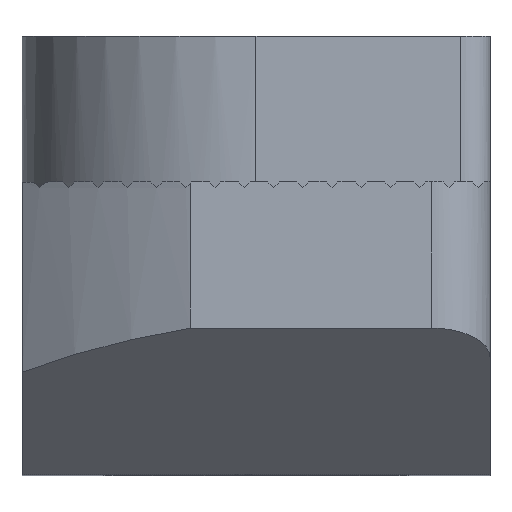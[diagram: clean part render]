
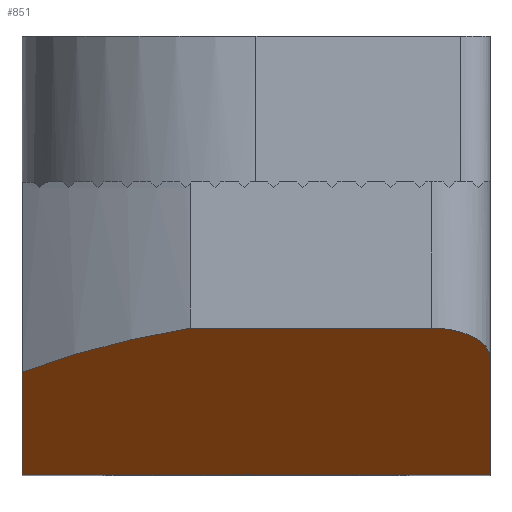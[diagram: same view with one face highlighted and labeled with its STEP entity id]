
A CAD part, top view. The second image highlights one B-rep face of the part: STEP entity #851.
In plain terms, the highlighted planar face has unit normal (0, -0.894, 0.447).
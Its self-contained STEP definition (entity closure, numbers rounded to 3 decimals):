
#5 = EDGE_CURVE ( 'NONE', #1980, #913, #3926, .T. ) ;
#8 = ORIENTED_EDGE ( 'NONE', *, *, #4090, .F. ) ;
#55 = EDGE_CURVE ( 'NONE', #3885, #1798, #2444, .T. ) ;
#133 = DIRECTION ( 'NONE',  ( 0., 0.447, 0.894 ) ) ;
#286 = VERTEX_POINT ( 'NONE', #1436 ) ;
#356 = DIRECTION ( 'NONE',  ( 0., 0.447, 0.894 ) ) ;
#490 = CARTESIAN_POINT ( 'NONE',  ( -2.159, -2.67, 9.159 ) ) ;
#526 = FACE_OUTER_BOUND ( 'NONE', #2929, .T. ) ;
#545 = EDGE_CURVE ( 'NONE', #3885, #3968, #1226, .T. ) ;
#610 = ORIENTED_EDGE ( 'NONE', *, *, #545, .F. ) ;
#827 = CARTESIAN_POINT ( 'NONE',  ( 3.586, -2.5, 9.5 ) ) ;
#851 = ADVANCED_FACE ( 'NONE', ( #526 ), #3647, .F. ) ;
#913 = VERTEX_POINT ( 'NONE', #3059 ) ;
#1020 = CARTESIAN_POINT ( 'NONE',  ( -4., -2.5, 9.5 ) ) ;
#1162 = CARTESIAN_POINT ( 'NONE',  ( 3., -2.5, 9.5 ) ) ;
#1226 = LINE ( 'NONE', #1020, #1305 ) ;
#1305 = VECTOR ( 'NONE', #356, 1000. ) ;
#1436 = CARTESIAN_POINT ( 'NONE',  ( -1.122, -2.5, 9.5 ) ) ;
#1465 = EDGE_CURVE ( 'NONE', #286, #913, #3174, .T. ) ;
#1470 =( BOUNDED_CURVE ( )  B_SPLINE_CURVE ( 3, ( #3661, #1776, #490, #2733 ),
 .UNSPECIFIED., .F., .T. ) 
 B_SPLINE_CURVE_WITH_KNOTS ( ( 4, 4 ),
 ( 5.64, 5.966 ),
 .UNSPECIFIED. ) 
 CURVE ( )  GEOMETRIC_REPRESENTATION_ITEM ( )  RATIONAL_B_SPLINE_CURVE ( ( 1., 0.991, 0.991, 1. ) ) 
 REPRESENTATION_ITEM ( '' )  );
#1478 = CARTESIAN_POINT ( 'NONE',  ( 4., -3., 8.5 ) ) ;
#1675 = CARTESIAN_POINT ( 'NONE',  ( -4., -5., 4.5 ) ) ;
#1763 = EDGE_CURVE ( 'NONE', #1798, #1980, #2436, .T. ) ;
#1776 = CARTESIAN_POINT ( 'NONE',  ( -3.127, -2.923, 8.655 ) ) ;
#1798 = VERTEX_POINT ( 'NONE', #2934 ) ;
#1808 = AXIS2_PLACEMENT_3D ( 'NONE', #2046, #2066, #133 ) ;
#1980 = VERTEX_POINT ( 'NONE', #1478 ) ;
#2046 = CARTESIAN_POINT ( 'NONE',  ( -4., -2.5, 9.5 ) ) ;
#2066 = DIRECTION ( 'NONE',  ( 0., 0.894, -0.447 ) ) ;
#2091 = CARTESIAN_POINT ( 'NONE',  ( 4., -2.707, 9.086 ) ) ;
#2276 = DIRECTION ( 'NONE',  ( 0., 0.447, 0.894 ) ) ;
#2378 = VECTOR ( 'NONE', #3951, 1000. ) ;
#2424 = VECTOR ( 'NONE', #2276, 1000. ) ;
#2427 = CARTESIAN_POINT ( 'NONE',  ( 4., -3., 8.5 ) ) ;
#2436 = LINE ( 'NONE', #3187, #2424 ) ;
#2444 = LINE ( 'NONE', #3308, #2378 ) ;
#2512 = ORIENTED_EDGE ( 'NONE', *, *, #1465, .F. ) ;
#2663 = CARTESIAN_POINT ( 'NONE',  ( -4., -3.25, 8. ) ) ;
#2733 = CARTESIAN_POINT ( 'NONE',  ( -1.122, -2.5, 9.5 ) ) ;
#2858 = DIRECTION ( 'NONE',  ( 1., 0., 0. ) ) ;
#2929 = EDGE_LOOP ( 'NONE', ( #3245, #3297, #2512, #8, #610, #3370 ) ) ;
#2934 = CARTESIAN_POINT ( 'NONE',  ( 4., -5., 4.5 ) ) ;
#3059 = CARTESIAN_POINT ( 'NONE',  ( 3., -2.5, 9.5 ) ) ;
#3132 = VECTOR ( 'NONE', #2858, 1000. ) ;
#3174 = LINE ( 'NONE', #3794, #3132 ) ;
#3187 = CARTESIAN_POINT ( 'NONE',  ( 4., -2.5, 9.5 ) ) ;
#3245 = ORIENTED_EDGE ( 'NONE', *, *, #1763, .T. ) ;
#3297 = ORIENTED_EDGE ( 'NONE', *, *, #5, .T. ) ;
#3308 = CARTESIAN_POINT ( 'NONE',  ( -4., -5., 4.5 ) ) ;
#3370 = ORIENTED_EDGE ( 'NONE', *, *, #55, .T. ) ;
#3647 = PLANE ( 'NONE',  #1808 ) ;
#3661 = CARTESIAN_POINT ( 'NONE',  ( -4., -3.25, 8. ) ) ;
#3794 = CARTESIAN_POINT ( 'NONE',  ( -4., -2.5, 9.5 ) ) ;
#3885 = VERTEX_POINT ( 'NONE', #1675 ) ;
#3926 =( BOUNDED_CURVE ( )  B_SPLINE_CURVE ( 3, ( #2427, #2091, #827, #1162 ),
 .UNSPECIFIED., .F., .F. ) 
 B_SPLINE_CURVE_WITH_KNOTS ( ( 4, 4 ),
 ( 4.712, 6.283 ),
 .UNSPECIFIED. ) 
 CURVE ( )  GEOMETRIC_REPRESENTATION_ITEM ( )  RATIONAL_B_SPLINE_CURVE ( ( 1., 0.805, 0.805, 1. ) ) 
 REPRESENTATION_ITEM ( '' )  );
#3951 = DIRECTION ( 'NONE',  ( 1., 0., 0. ) ) ;
#3968 = VERTEX_POINT ( 'NONE', #2663 ) ;
#4090 = EDGE_CURVE ( 'NONE', #3968, #286, #1470, .T. ) ;
